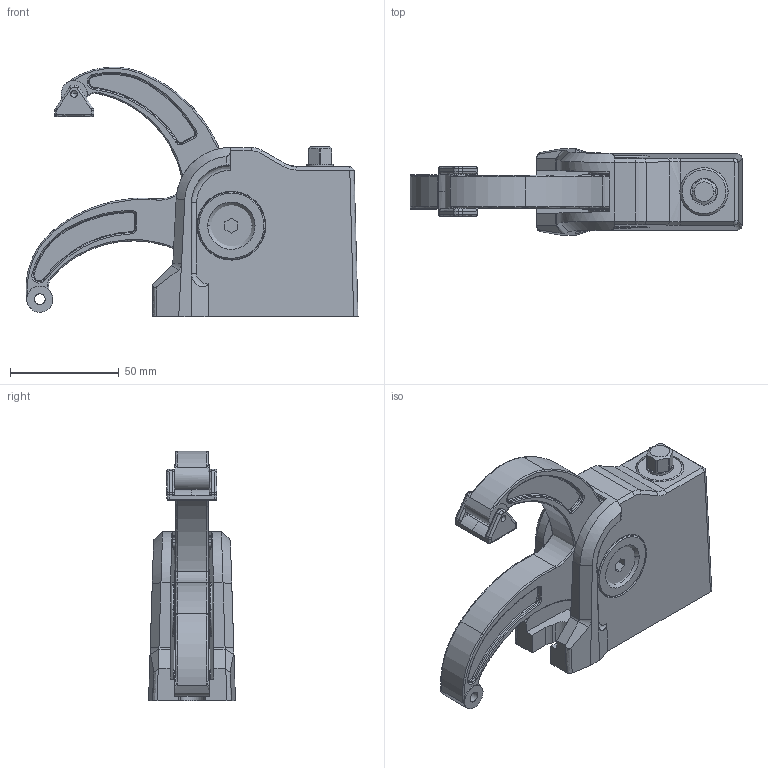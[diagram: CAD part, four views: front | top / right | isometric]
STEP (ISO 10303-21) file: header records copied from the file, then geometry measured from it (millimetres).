
FILE_DESCRIPTION( ( 'STEP AP214' ), '1' );
FILE_NAME( 'O:/CAD_Daten_Platzhalter/BAS u BSP/BAS-C10-6/BAS-C10-6.stp', ' ', ( ' ' ), ( ' ' ), 'PSStep 11.0', ' ', ' ' );
FILE_SCHEMA( ( 'AUTOMOTIVE_DESIGN { 1 0 10303 214 1 1 1 1 }' ) );
Length unit declared in the file: metre
Products named in the file (10): 1; 2; 3; 4; 5; 6; 7; 8; 9; 10
Bounding box: 152.89 x 40 x 115.02 mm (x, y, z)
Volume: 240746.1 mm3; surface area: 76936.8 mm2
Topology: 10 solids, 10 shells, 548 faces, 1277 edges, 753 vertices
Faces by surface type: bspline 548
Entity records: 31798 total; most frequent: CARTESIAN_POINT 20072, ORIENTED_EDGE 2522, EDGE_CURVE 1261, VERTEX_POINT 753, B_SPLINE_CURVE_WITH_KNOTS 745, EDGE_LOOP 592, STYLED_ITEM 548, PRESENTATION_STYLE_ASSIGNMENT 548
